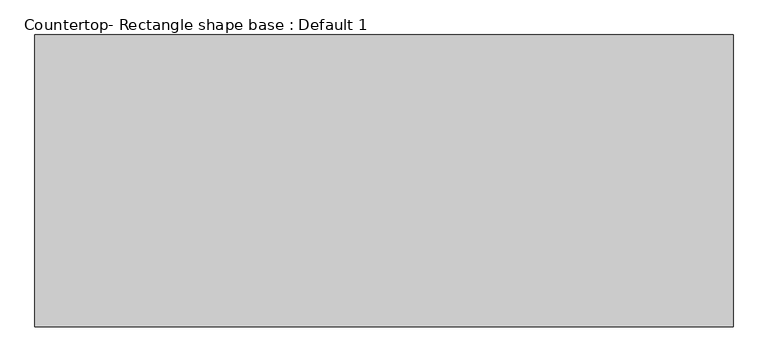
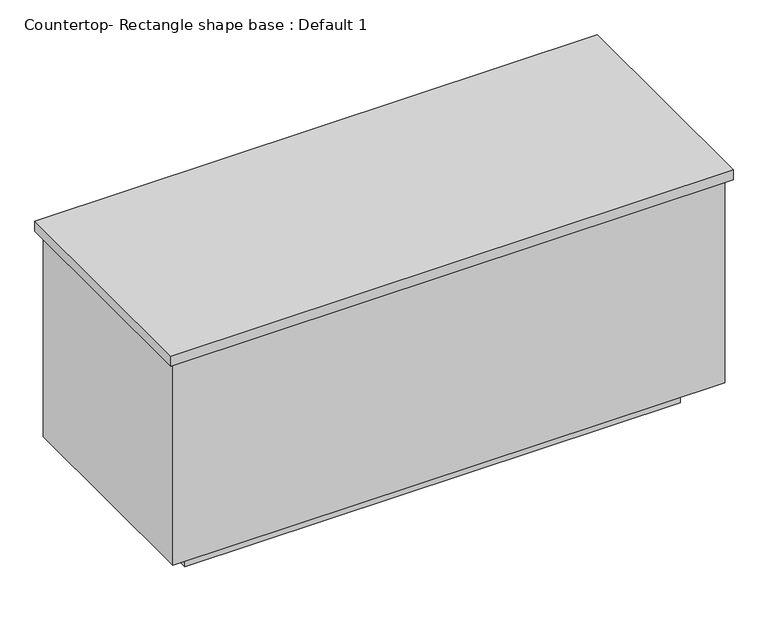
"""IFC4 building model written with IfcOpenShell, lengths in millimetres: proxy geometry, Countertop- Rectangle shape base : Default 1."""

from ifc_helpers import new_model, si_unit, frame, origin, origin_with_axes, place, context, project, spatial, polyline, outline, extrude, source, transform, mapped, element, save


def countertop_rectangle_shape_base_default_1_6818d92f(model_context):
    return source(origin(), model_context, "Body", "SweptSolid", [
        extrude(outline(polyline([(-247.65, -41.275), (-247.65, 803.275), (1771.65, 803.275), (1771.65, -41.275), (-247.65, -41.275)])), frame((0.0, 0.0, 876.3), z_axis=(0.0, 0.0, 1.0), x_axis=(1.0, 0.0, 0.0)), (0.0, 0.0, 1.0), 38.1),
        extrude(outline(polyline([(1752.6, 784.225), (1752.6, -22.225), (-228.6, -22.225), (-228.6, 784.225), (1752.6, 784.225)])), frame((0.0, 0.0, 101.6), z_axis=(0.0, 0.0, 1.0), x_axis=(1.0, 0.0, 0.0)), (0.0, 0.0, 1.0), 774.7),
        extrude(outline(polyline([(1651.0, 682.625), (1651.0, 79.375), (-127.0, 79.375), (-127.0, 682.625), (1651.0, 682.625)])), origin_with_axes(), (0.0, 0.0, 1.0), 101.6),
    ])


if __name__ == "__main__":
    model = new_model("IFC4")
    model_context = context("Model", 3, world=origin())
    ifc_project = project(units=[si_unit("LENGTHUNIT", "METRE", prefix="MILLI")], contexts=[model_context])
    site = spatial("IfcSite", under=ifc_project)
    building = spatial("IfcBuilding", under=site)
    placement = place(None, origin())
    countertop_rectangle_shape_base_default_1_shape = countertop_rectangle_shape_base_default_1_6818d92f(model_context)
    element("IfcBuildingElementProxy", 1, Name="Countertop- Rectangle shape base : Default 1", ObjectType="Countertop- Rectangle shape base : Default 1", at=placement, inside=building, context=model_context, shape_type="MappedRepresentation", body=[
        mapped(countertop_rectangle_shape_base_default_1_shape, transform((0.0, 0.0, 0.0), x_axis=(1.0, 0.0, 0.0), y_axis=(0.0, 1.0, 0.0), z_axis=(0.0, 0.0, 1.0))),
    ])
    save(model, "model.ifc")
